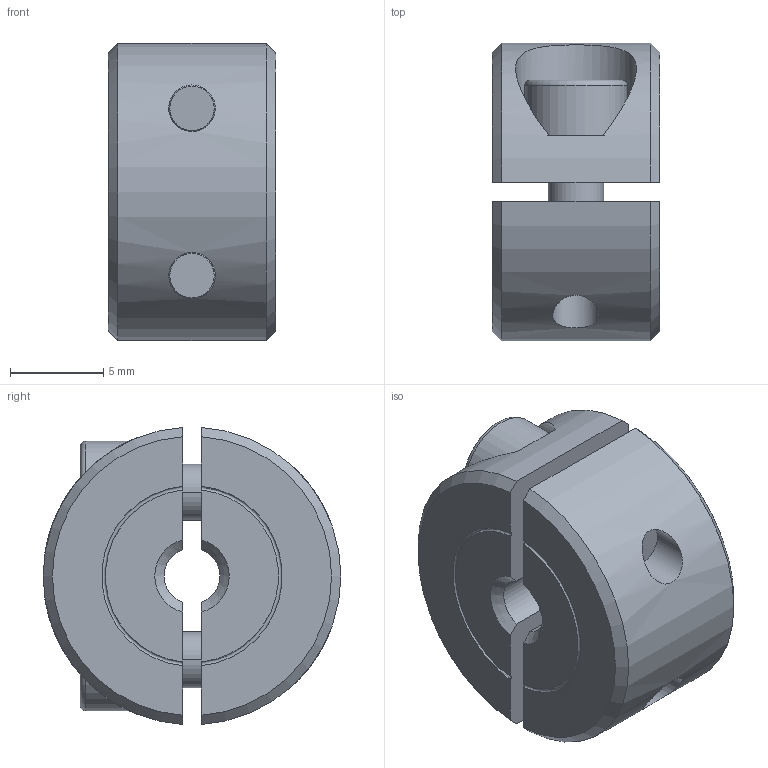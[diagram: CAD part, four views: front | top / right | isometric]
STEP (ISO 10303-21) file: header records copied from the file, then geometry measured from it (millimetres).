
FILE_DESCRIPTION((''),'2;1');
FILE_NAME('131-600-0003_ASM','2013-12-20T',('Brieden'),('brieden'),'PRO/ENGINEER BY PARAMETRIC TECHNOLOGY CORPORATION, 2005030','PRO/ENGINEER BY PARAMETRIC TECHNOLOGY CORPORATION, 2005030','');
FILE_SCHEMA(('AUTOMOTIVE_DESIGN_CC2 { 1 2 10303 214 -1 1 5 2 }'));
Length unit declared in the file: millimetre
Products named in the file (4): 131-600-0003-DB_PRT; 131-600-0003-TH_PRT; D912-M3X8_PRT; 131-600-0003_ASM
Assembly tree (4 placements, depth 2):
  131-600-0003_ASM
    131-600-0003-DB_PRT
    131-600-0003-TH_PRT
    D912-M3X8_PRT  x2
Bounding box: 9 x 16 x 15.97 mm (x, y, z)
Volume: 1535.8 mm3; surface area: 1618.1 mm2
Topology: 4 solids, 4 shells, 94 faces, 214 edges, 136 vertices
Faces by surface type: plane 34, cylinder 26, cone 20, torus 14
Entity records: 2243 total; most frequent: CARTESIAN_POINT 542, DIRECTION 348, ORIENTED_EDGE 312, EDGE_CURVE 156, AXIS2_PLACEMENT_3D 143, VERTEX_POINT 100, EDGE_LOOP 80, CIRCLE 68
